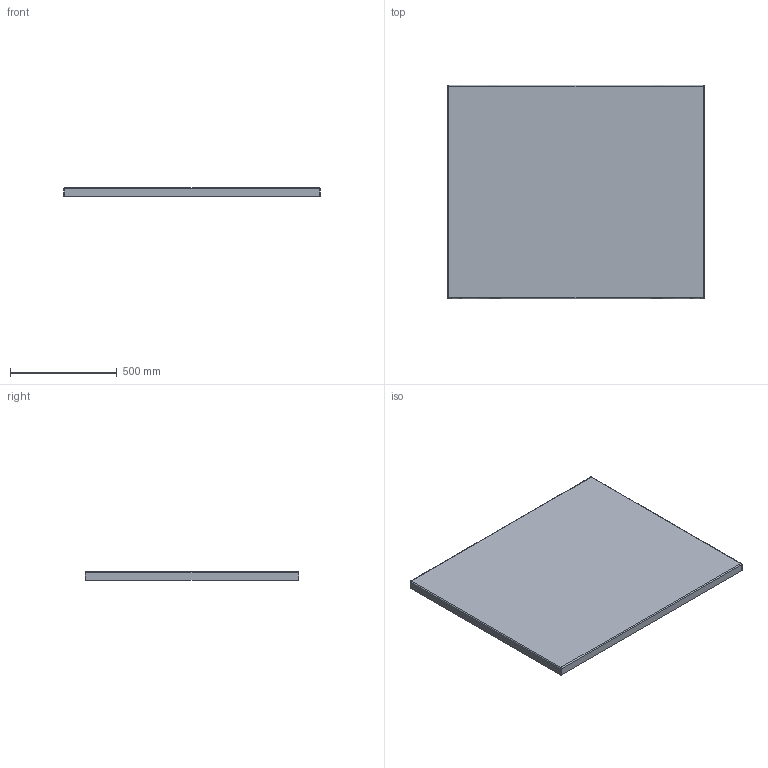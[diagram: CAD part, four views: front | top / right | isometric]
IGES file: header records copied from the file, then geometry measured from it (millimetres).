
Start section: SolidWorks IGES file using NURBS representation for surfaces
Global section: file name: W:\01-VICCARBE\PRODUCTOS\45-TRESTLE\04-MODELADOS (PLANOS)\WEB\IGES\viccarbe_trestle_backrest_central.IGS; native system: SolidWorks 2013; preprocessor: SolidWorks 2013; author: Usuario; date: 140917.174310; units: millimetre
Bounding box: 1200 x 1000 x 40 mm (x, y, z)
Surface area: 2566333.4 mm2 (no closed solid volume)
Topology: 0 solids, 0 shells, 18 faces, 76 edges, 72 vertices
Faces by surface type: bspline 18
